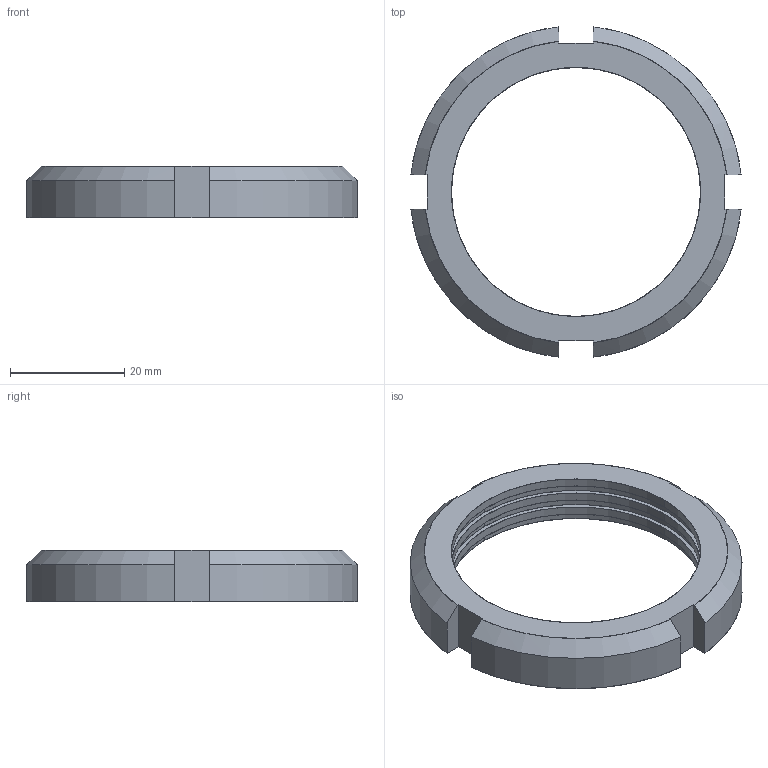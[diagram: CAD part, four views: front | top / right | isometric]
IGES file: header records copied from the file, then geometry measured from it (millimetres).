
Start section: SolidWorks IGES file using analytic representation for surfaces
Global section: file name: c:\CATALO3D\IGS\GM-050.IGS; native system: SolidWorks 2005 by SolidWorks Corporation; preprocessor: SolidWorks 2005 by SolidWorks Corporation; author: luigip; date: 050913.101244; units: millimetre
Bounding box: 57.69 x 57.69 x 9 mm (x, y, z)
Surface area: 5417.9 mm2 (no closed solid volume)
Topology: 0 solids, 0 shells, 39 faces, 1056 edges, 1056 vertices
Faces by surface type: revolution 20, bspline 19
